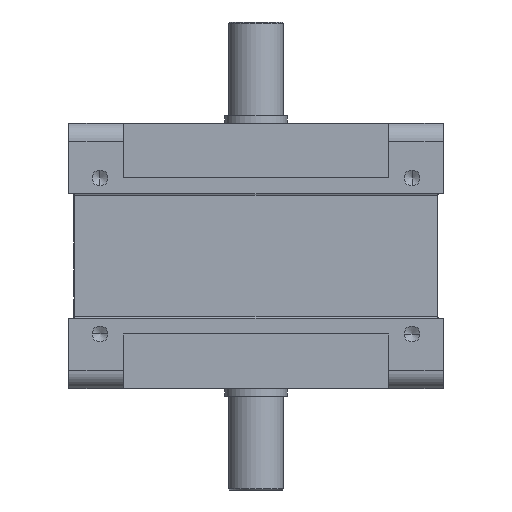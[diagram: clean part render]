
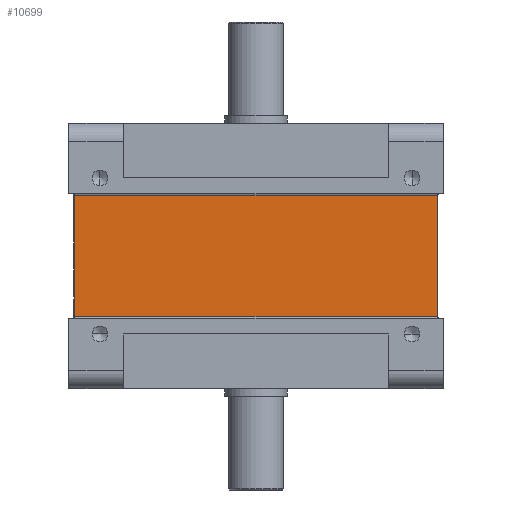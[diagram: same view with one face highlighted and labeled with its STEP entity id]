
A CAD part, front view. The second image highlights one B-rep face of the part: STEP entity #10699.
In plain terms, the highlighted planar face has unit normal (0, -1, 0).
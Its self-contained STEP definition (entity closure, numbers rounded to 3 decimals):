
#1460 = LINE ( 'NONE', #50569, #12770 ) ;
#3476 = LINE ( 'NONE', #7751, #35795 ) ;
#5115 = CARTESIAN_POINT ( 'NONE',  ( -116.304, -241.304, -38.833 ) ) ;
#5273 = EDGE_LOOP ( 'NONE', ( #43568, #33606, #6817, #34828 ) ) ;
#6135 = CARTESIAN_POINT ( 'NONE',  ( 116.304, -241.304, 38.833 ) ) ;
#6817 = ORIENTED_EDGE ( 'NONE', *, *, #31482, .F. ) ;
#7466 = LINE ( 'NONE', #24374, #30063 ) ;
#7751 = CARTESIAN_POINT ( 'NONE',  ( 120., -241.304, 38.833 ) ) ;
#10699 = ADVANCED_FACE ( 'NONE', ( #38194 ), #46124, .T. ) ;
#10904 = AXIS2_PLACEMENT_3D ( 'NONE', #13061, #21689, #50163 ) ;
#11451 = VECTOR ( 'NONE', #38687, 1000. ) ;
#12770 = VECTOR ( 'NONE', #50399, 1000. ) ;
#13061 = CARTESIAN_POINT ( 'NONE',  ( -116.304, -241.304, -40. ) ) ;
#16334 = VERTEX_POINT ( 'NONE', #45794 ) ;
#21689 = DIRECTION ( 'NONE',  ( 0., -1., 0. ) ) ;
#24374 = CARTESIAN_POINT ( 'NONE',  ( 116.304, -241.304, -40. ) ) ;
#26218 = VERTEX_POINT ( 'NONE', #38124 ) ;
#28764 = DIRECTION ( 'NONE',  ( 0., 0., -1. ) ) ;
#30063 = VECTOR ( 'NONE', #28764, 1000. ) ;
#30756 = VERTEX_POINT ( 'NONE', #6135 ) ;
#31245 = EDGE_CURVE ( 'NONE', #30756, #49238, #7466, .T. ) ;
#31256 = EDGE_CURVE ( 'NONE', #30756, #16334, #3476, .T. ) ;
#31482 = EDGE_CURVE ( 'NONE', #26218, #16334, #1460, .T. ) ;
#31496 = EDGE_CURVE ( 'NONE', #26218, #49238, #44522, .T. ) ;
#33606 = ORIENTED_EDGE ( 'NONE', *, *, #31256, .T. ) ;
#34828 = ORIENTED_EDGE ( 'NONE', *, *, #31496, .T. ) ;
#35795 = VECTOR ( 'NONE', #37147, 1000. ) ;
#37147 = DIRECTION ( 'NONE',  ( -1., 0., 0. ) ) ;
#38124 = CARTESIAN_POINT ( 'NONE',  ( -116.304, -241.304, -38.833 ) ) ;
#38194 = FACE_OUTER_BOUND ( 'NONE', #5273, .T. ) ;
#38687 = DIRECTION ( 'NONE',  ( 1., 0., 0. ) ) ;
#42119 = CARTESIAN_POINT ( 'NONE',  ( 116.304, -241.304, -38.833 ) ) ;
#43568 = ORIENTED_EDGE ( 'NONE', *, *, #31245, .F. ) ;
#44522 = LINE ( 'NONE', #5115, #11451 ) ;
#45794 = CARTESIAN_POINT ( 'NONE',  ( -116.304, -241.304, 38.833 ) ) ;
#46124 = PLANE ( 'NONE',  #10904 ) ;
#49238 = VERTEX_POINT ( 'NONE', #42119 ) ;
#50163 = DIRECTION ( 'NONE',  ( 1., 0., 0. ) ) ;
#50399 = DIRECTION ( 'NONE',  ( 0., 0., 1. ) ) ;
#50569 = CARTESIAN_POINT ( 'NONE',  ( -116.304, -241.304, -40. ) ) ;
